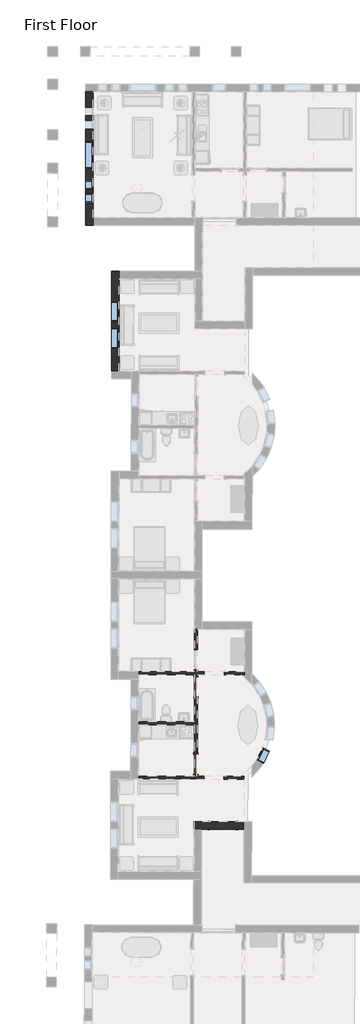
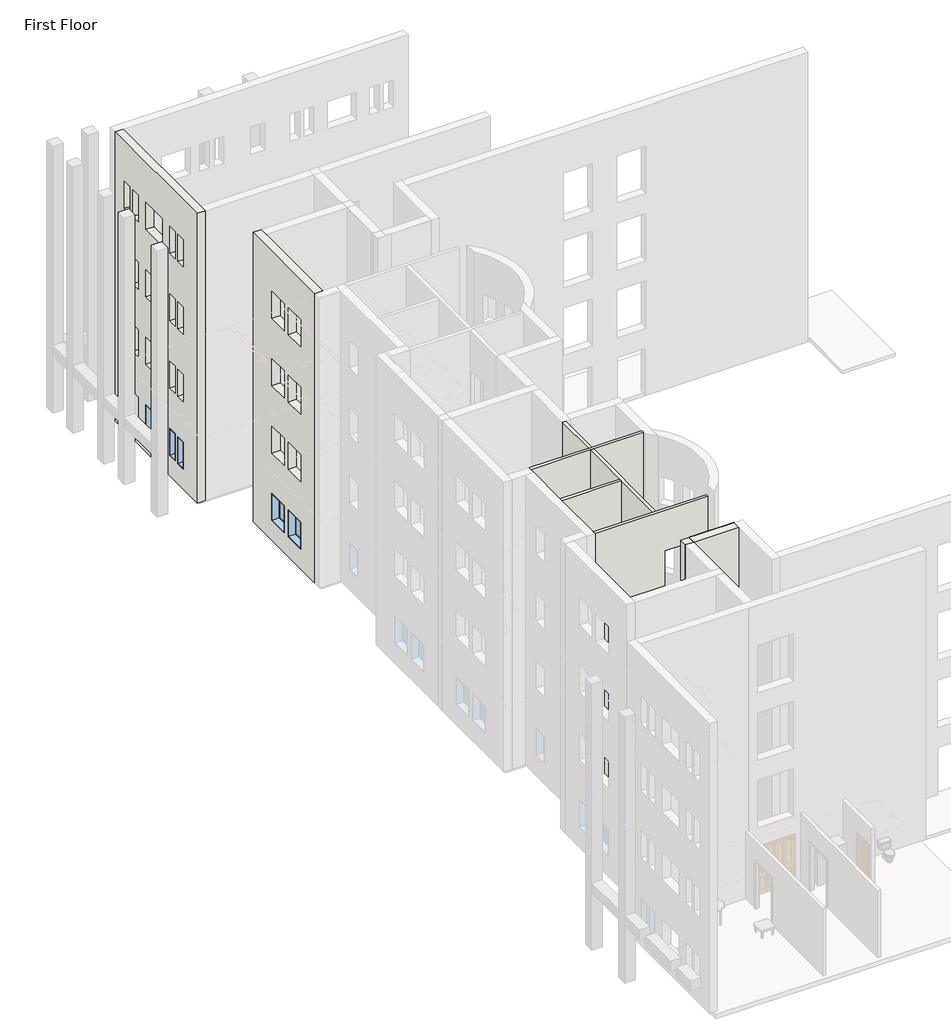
# One storey, part 6 of 23: 8 walls, 6 windows, 3 doors.
"""IFC4 building model written with IfcOpenShell, lengths in millimetres."""

from ifc_helpers import new_model, si_unit, origin, origin_with_axes, place, context, project, spatial, polyline, outline, extrude, faceted_brep, transform, mapped, element, save
from components import m_bifold_4_panel_1220_x_2134mm_cde6dea2, m_single_flush_0915_x_2134mm_ab9b6334, m_single_flush_0915_x_2134mm_08e0827a, m_fixed_0406_x_1220mm_57fee329, m_fixed_0610_x_1220mm_2c28ef1d, m_fixed_0915_x_1220mm_bde29121, m_fixed_1220_x_1220mm_8f5f8ad3

model = new_model("IFC4")

# Units and contexts
model_context = context("Model", 3, world=origin())
ifc_project = project(units=[si_unit("LENGTHUNIT", "METRE", prefix="MILLI")], contexts=[model_context])

# Site, building, storey
site = spatial("IfcSite", under=ifc_project)
building = spatial("IfcBuilding", under=site)
storey = spatial("IfcBuildingStorey", under=building, Name="First Floor", Elevation=0.0)

# Doors
placement = place(None, origin())
m_bifold_4_panel_1220_x_2134mm_shape = m_bifold_4_panel_1220_x_2134mm_cde6dea2(model_context)
element("IfcDoor", 1, ObjectType="M_Bifold-4 Panel : 1220 x 2134mm", at=placement, inside=storey, context=model_context, shape_type="MappedRepresentation", body=[
    mapped(m_bifold_4_panel_1220_x_2134mm_shape, transform((-28896.4341492, -31100.6581424, 0.0), x_axis=(-0.9999989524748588, 0.0014474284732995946, 0.0), y_axis=(-0.0014474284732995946, -0.9999989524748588, 0.0), z_axis=(0.0, 0.0, 1.0))),
])
m_single_flush_0915_x_2134mm_shape = m_single_flush_0915_x_2134mm_ab9b6334(model_context)
element("IfcDoor", 2, ObjectType="M_Single-Flush : 0915 x 2134mm", at=placement, inside=storey, context=model_context, shape_type="MappedRepresentation", body=[
    mapped(m_single_flush_0915_x_2134mm_shape, transform((-30135.3858371, -28302.8619177, 0.0), x_axis=(-0.0014474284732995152, -0.9999989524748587, 0.0), y_axis=(0.9999989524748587, -0.0014474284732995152, 0.0), z_axis=(0.0, 0.0, 1.0))),
])
m_single_flush_0915_x_2134mm_2_shape = m_single_flush_0915_x_2134mm_08e0827a(model_context)
element("IfcDoor", 3, ObjectType="M_Single-Flush : 0915 x 2134mm", at=placement, inside=storey, context=model_context, shape_type="MappedRepresentation", body=[
    mapped(m_single_flush_0915_x_2134mm_2_shape, transform((-30130.249999, -24754.6156346, 0.0), x_axis=(0.0014474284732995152, 0.9999989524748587, 0.0), y_axis=(-0.9999989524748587, 0.0014474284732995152, 0.0), z_axis=(0.0, 0.0, 1.0))),
])

# Walls
element("IfcWall", 4, ObjectType="Exterior - Brick on Mtl. Stud", at=placement, inside=storey, context=model_context, shape_type="Brep", body=[
    faceted_brep([(-35170.8416203, 2406.1188386, 0.0), (-35170.8416203, -3504.8811614, 0.0), (-35170.8416203, -3689.8811614, 0.0), (-35170.8416203, -3689.8811614, 13107.0), (-35170.8416203, 2406.1188386, 13107.0), (-35170.8416203, -1076.8811614, 915.0), (-35170.8416203, 143.1188386, 915.0), (-35170.8416203, 143.1188386, 2135.0), (-35170.8416203, -1076.8811614, 2135.0), (-35170.8416203, 701.1188386, 915.0), (-35170.8416203, 1107.1188386, 915.0), (-35170.8416203, 1107.1188386, 2135.0), (-35170.8416203, 701.1188386, 2135.0), (-35170.8416203, 1311.1188386, 915.0), (-35170.8416203, 1717.1188386, 915.0), (-35170.8416203, 1717.1188386, 2135.0), (-35170.8416203, 1311.1188386, 2135.0), (-35170.8416203, -1634.8811614, 915.0), (-35170.8416203, -1634.8811614, 2135.0), (-35170.8416203, -2040.8811614, 2135.0), (-35170.8416203, -2040.8811614, 915.0), (-35170.8416203, -2244.8811614, 915.0), (-35170.8416203, -2244.8811614, 2135.0), (-35170.8416203, -2650.8811614, 2135.0), (-35170.8416203, -2650.8811614, 915.0), (-35170.8416203, -1634.8811614, 10059.0), (-35170.8416203, -1634.8811614, 11279.0), (-35170.8416203, -2040.8811614, 11279.0), (-35170.8416203, -2040.8811614, 10059.0), (-35170.8416203, -2244.8811614, 10059.0), (-35170.8416203, -2244.8811614, 11279.0), (-35170.8416203, -2650.8811614, 11279.0), (-35170.8416203, -2650.8811614, 10059.0), (-35170.8416203, 701.1188386, 10059.0), (-35170.8416203, 1107.1188386, 10059.0), (-35170.8416203, 1107.1188386, 11279.0), (-35170.8416203, 701.1188386, 11279.0), (-35170.8416203, 1311.1188386, 10059.0), (-35170.8416203, 1717.1188386, 10059.0), (-35170.8416203, 1717.1188386, 11279.0), (-35170.8416203, 1311.1188386, 11279.0), (-35170.8416203, -1076.8811614, 10059.0), (-35170.8416203, 143.1188386, 10059.0), (-35170.8416203, 143.1188386, 11279.0), (-35170.8416203, -1076.8811614, 11279.0), (-35170.8416203, -1634.8811614, 3963.0), (-35170.8416203, -1634.8811614, 5183.0), (-35170.8416203, -2040.8811614, 5183.0), (-35170.8416203, -2040.8811614, 3963.0), (-35170.8416203, -2244.8811614, 3963.0), (-35170.8416203, -2244.8811614, 5183.0), (-35170.8416203, -2650.8811614, 5183.0), (-35170.8416203, -2650.8811614, 3963.0), (-35170.8416203, 701.1188386, 3963.0), (-35170.8416203, 1107.1188386, 3963.0), (-35170.8416203, 1107.1188386, 5183.0), (-35170.8416203, 701.1188386, 5183.0), (-35170.8416203, 1311.1188386, 3963.0), (-35170.8416203, 1717.1188386, 3963.0), (-35170.8416203, 1717.1188386, 5183.0), (-35170.8416203, 1311.1188386, 5183.0), (-35170.8416203, -1076.8811614, 3963.0), (-35170.8416203, 143.1188386, 3963.0), (-35170.8416203, 143.1188386, 5183.0), (-35170.8416203, -1076.8811614, 5183.0), (-35170.8416203, -1634.8811614, 7011.0), (-35170.8416203, -1634.8811614, 8231.0), (-35170.8416203, -2040.8811614, 8231.0), (-35170.8416203, -2040.8811614, 7011.0), (-35170.8416203, -2244.8811614, 7011.0), (-35170.8416203, -2244.8811614, 8231.0), (-35170.8416203, -2650.8811614, 8231.0), (-35170.8416203, -2650.8811614, 7011.0), (-35170.8416203, 701.1188386, 7011.0), (-35170.8416203, 1107.1188386, 7011.0), (-35170.8416203, 1107.1188386, 8231.0), (-35170.8416203, 701.1188386, 8231.0), (-35170.8416203, 1311.1188386, 7011.0), (-35170.8416203, 1717.1188386, 7011.0), (-35170.8416203, 1717.1188386, 8231.0), (-35170.8416203, 1311.1188386, 8231.0), (-35170.8416203, -1076.8811614, 7011.0), (-35170.8416203, 143.1188386, 7011.0), (-35170.8416203, 143.1188386, 8231.0), (-35170.8416203, -1076.8811614, 8231.0), (-34820.8416203, 2406.1188386, 0.0), (-34820.8416203, 2406.1188386, 13107.0), (-34820.8416203, -3339.8811614, 13107.0), (-34820.8416203, -3689.8811614, 13107.0), (-34820.8416203, -3689.8811614, 0.0), (-34820.8416203, -3504.8811614, 0.0), (-34820.8416203, -3339.8811614, 0.0), (-34820.8416203, -1076.8811614, 915.0), (-34820.8416203, -1076.8811614, 2135.0), (-34820.8416203, 143.1188386, 2135.0), (-34820.8416203, 143.1188386, 915.0), (-34820.8416203, 701.1188386, 915.0), (-34820.8416203, 701.1188386, 2135.0), (-34820.8416203, 1107.1188386, 2135.0), (-34820.8416203, 1107.1188386, 915.0), (-34820.8416203, 1311.1188386, 915.0), (-34820.8416203, 1311.1188386, 2135.0), (-34820.8416203, 1717.1188386, 2135.0), (-34820.8416203, 1717.1188386, 915.0), (-34820.8416203, -1634.8811614, 915.0), (-34820.8416203, -2040.8811614, 915.0), (-34820.8416203, -2040.8811614, 2135.0), (-34820.8416203, -1634.8811614, 2135.0), (-34820.8416203, -2244.8811614, 915.0), (-34820.8416203, -2650.8811614, 915.0), (-34820.8416203, -2650.8811614, 2135.0), (-34820.8416203, -2244.8811614, 2135.0), (-34820.8416203, -1634.8811614, 10059.0), (-34820.8416203, -2040.8811614, 10059.0), (-34820.8416203, -2040.8811614, 11279.0), (-34820.8416203, -1634.8811614, 11279.0), (-34820.8416203, -2244.8811614, 10059.0), (-34820.8416203, -2650.8811614, 10059.0), (-34820.8416203, -2650.8811614, 11279.0), (-34820.8416203, -2244.8811614, 11279.0), (-34820.8416203, 701.1188386, 10059.0), (-34820.8416203, 701.1188386, 11279.0), (-34820.8416203, 1107.1188386, 11279.0), (-34820.8416203, 1107.1188386, 10059.0), (-34820.8416203, 1311.1188386, 10059.0), (-34820.8416203, 1311.1188386, 11279.0), (-34820.8416203, 1717.1188386, 11279.0), (-34820.8416203, 1717.1188386, 10059.0), (-34820.8416203, -1076.8811614, 10059.0), (-34820.8416203, -1076.8811614, 11279.0), (-34820.8416203, 143.1188386, 11279.0), (-34820.8416203, 143.1188386, 10059.0), (-34820.8416203, -1634.8811614, 3963.0), (-34820.8416203, -2040.8811614, 3963.0), (-34820.8416203, -2040.8811614, 5183.0), (-34820.8416203, -1634.8811614, 5183.0), (-34820.8416203, -2244.8811614, 3963.0), (-34820.8416203, -2650.8811614, 3963.0), (-34820.8416203, -2650.8811614, 5183.0), (-34820.8416203, -2244.8811614, 5183.0), (-34820.8416203, 701.1188386, 3963.0), (-34820.8416203, 701.1188386, 5183.0), (-34820.8416203, 1107.1188386, 5183.0), (-34820.8416203, 1107.1188386, 3963.0), (-34820.8416203, 1311.1188386, 3963.0), (-34820.8416203, 1311.1188386, 5183.0), (-34820.8416203, 1717.1188386, 5183.0), (-34820.8416203, 1717.1188386, 3963.0), (-34820.8416203, -1076.8811614, 3963.0), (-34820.8416203, -1076.8811614, 5183.0), (-34820.8416203, 143.1188386, 5183.0), (-34820.8416203, 143.1188386, 3963.0), (-34820.8416203, -1634.8811614, 7011.0), (-34820.8416203, -2040.8811614, 7011.0), (-34820.8416203, -2040.8811614, 8231.0), (-34820.8416203, -1634.8811614, 8231.0), (-34820.8416203, -2244.8811614, 7011.0), (-34820.8416203, -2650.8811614, 7011.0), (-34820.8416203, -2650.8811614, 8231.0), (-34820.8416203, -2244.8811614, 8231.0), (-34820.8416203, 701.1188386, 7011.0), (-34820.8416203, 701.1188386, 8231.0), (-34820.8416203, 1107.1188386, 8231.0), (-34820.8416203, 1107.1188386, 7011.0), (-34820.8416203, 1311.1188386, 7011.0), (-34820.8416203, 1311.1188386, 8231.0), (-34820.8416203, 1717.1188386, 8231.0), (-34820.8416203, 1717.1188386, 7011.0), (-34820.8416203, -1076.8811614, 7011.0), (-34820.8416203, -1076.8811614, 8231.0), (-34820.8416203, 143.1188386, 8231.0), (-34820.8416203, 143.1188386, 7011.0), (-34985.8416203, 2406.1188386, 0.0), (-34985.8416203, -3689.8811614, 0.0), (-34985.8416203, -3504.8811614, 0.0)], [[[0, 1, 2, 3, 4], [5, 6, 7, 8], [9, 10, 11, 12], [13, 14, 15, 16], [17, 18, 19, 20], [21, 22, 23, 24], [25, 26, 27, 28], [29, 30, 31, 32], [33, 34, 35, 36], [37, 38, 39, 40], [41, 42, 43, 44], [45, 46, 47, 48], [49, 50, 51, 52], [53, 54, 55, 56], [57, 58, 59, 60], [61, 62, 63, 64], [65, 66, 67, 68], [69, 70, 71, 72], [73, 74, 75, 76], [77, 78, 79, 80], [81, 82, 83, 84]], [[85, 86, 87, 88, 89, 90, 91], [92, 93, 94, 95], [96, 97, 98, 99], [100, 101, 102, 103], [104, 105, 106, 107], [108, 109, 110, 111], [112, 113, 114, 115], [116, 117, 118, 119], [120, 121, 122, 123], [124, 125, 126, 127], [128, 129, 130, 131], [132, 133, 134, 135], [136, 137, 138, 139], [140, 141, 142, 143], [144, 145, 146, 147], [148, 149, 150, 151], [152, 153, 154, 155], [156, 157, 158, 159], [160, 161, 162, 163], [164, 165, 166, 167], [168, 169, 170, 171]], [[4, 3, 88, 87, 86]], [[0, 4, 86, 85, 172]], [[3, 2, 173, 89, 88]], [[93, 92, 5, 8]], [[94, 93, 8, 7]], [[95, 94, 7, 6]], [[92, 95, 6, 5]], [[97, 96, 9, 12]], [[98, 97, 12, 11]], [[99, 98, 11, 10]], [[96, 99, 10, 9]], [[101, 100, 13, 16]], [[102, 101, 16, 15]], [[103, 102, 15, 14]], [[100, 103, 14, 13]], [[18, 17, 104, 107]], [[19, 18, 107, 106]], [[20, 19, 106, 105]], [[17, 20, 105, 104]], [[22, 21, 108, 111]], [[23, 22, 111, 110]], [[24, 23, 110, 109]], [[21, 24, 109, 108]], [[90, 89, 173, 174]], [[1, 0, 172, 174]], [[2, 1, 174, 173]], [[26, 25, 112, 115]], [[27, 26, 115, 114]], [[28, 27, 114, 113]], [[25, 28, 113, 112]], [[30, 29, 116, 119]], [[31, 30, 119, 118]], [[32, 31, 118, 117]], [[29, 32, 117, 116]], [[121, 120, 33, 36]], [[122, 121, 36, 35]], [[123, 122, 35, 34]], [[120, 123, 34, 33]], [[125, 124, 37, 40]], [[126, 125, 40, 39]], [[127, 126, 39, 38]], [[124, 127, 38, 37]], [[129, 128, 41, 44]], [[130, 129, 44, 43]], [[131, 130, 43, 42]], [[128, 131, 42, 41]], [[46, 45, 132, 135]], [[47, 46, 135, 134]], [[48, 47, 134, 133]], [[45, 48, 133, 132]], [[50, 49, 136, 139]], [[51, 50, 139, 138]], [[52, 51, 138, 137]], [[49, 52, 137, 136]], [[141, 140, 53, 56]], [[142, 141, 56, 55]], [[143, 142, 55, 54]], [[140, 143, 54, 53]], [[145, 144, 57, 60]], [[146, 145, 60, 59]], [[147, 146, 59, 58]], [[144, 147, 58, 57]], [[149, 148, 61, 64]], [[150, 149, 64, 63]], [[151, 150, 63, 62]], [[148, 151, 62, 61]], [[66, 65, 152, 155]], [[67, 66, 155, 154]], [[68, 67, 154, 153]], [[65, 68, 153, 152]], [[70, 69, 156, 159]], [[71, 70, 159, 158]], [[72, 71, 158, 157]], [[69, 72, 157, 156]], [[161, 160, 73, 76]], [[162, 161, 76, 75]], [[163, 162, 75, 74]], [[160, 163, 74, 73]], [[165, 164, 77, 80]], [[166, 165, 80, 79]], [[167, 166, 79, 78]], [[164, 167, 78, 77]], [[169, 168, 81, 84]], [[170, 169, 84, 83]], [[171, 170, 83, 82]], [[168, 171, 82, 81]], [[172, 85, 91, 90, 174]]]),
])
element("IfcWall", 5, ObjectType="Exterior - Brick on Mtl. Stud", at=placement, inside=storey, context=model_context, shape_type="Brep", body=[
    faceted_brep([(-33644.3964507, -10344.7640643, 0.0), (-33638.2854077, -6122.7684869, 0.0), (-33638.046582, -5957.7686598, 0.0), (-33637.7788078, -5772.7688535, 0.0), (-33637.7788078, -5772.7688535, 13107.0), (-33638.2854077, -6122.7684869, 13107.0), (-33644.3964507, -10344.7640643, 13107.0), (-33641.5610831, -8385.8661163, 915.0), (-33642.8854802, -9300.8651578, 915.0), (-33642.8854802, -9300.8651578, 2135.0), (-33641.5610831, -8385.8661163, 2135.0), (-33639.7963783, -7166.6673934, 915.0), (-33641.1207754, -8081.6664349, 915.0), (-33641.1207754, -8081.6664349, 2135.0), (-33639.7963783, -7166.6673934, 2135.0), (-33639.7963783, -7166.6673934, 10059.0), (-33641.1207754, -8081.6664349, 10059.0), (-33641.1207754, -8081.6664349, 11279.0), (-33639.7963783, -7166.6673934, 11279.0), (-33641.5610831, -8385.8661163, 10059.0), (-33642.8854802, -9300.8651578, 10059.0), (-33642.8854802, -9300.8651578, 11279.0), (-33641.5610831, -8385.8661163, 11279.0), (-33639.7963783, -7166.6673934, 3963.0), (-33641.1207754, -8081.6664349, 3963.0), (-33641.1207754, -8081.6664349, 5183.0), (-33639.7963783, -7166.6673934, 5183.0), (-33641.5610831, -8385.8661163, 3963.0), (-33642.8854802, -9300.8651578, 3963.0), (-33642.8854802, -9300.8651578, 5183.0), (-33641.5610831, -8385.8661163, 5183.0), (-33639.7963783, -7166.6673934, 7011.0), (-33641.1207754, -8081.6664349, 7011.0), (-33641.1207754, -8081.6664349, 8231.0), (-33639.7963783, -7166.6673934, 8231.0), (-33641.5610831, -8385.8661163, 7011.0), (-33642.8854802, -9300.8651578, 7011.0), (-33642.8854802, -9300.8651578, 8231.0), (-33641.5610831, -8385.8661163, 8231.0), (-33994.3960841, -10344.2574643, 0.0), (-33994.3960841, -10344.2574643, 13107.0), (-33987.7784411, -5772.2622536, 13107.0), (-33987.7784411, -5772.2622536, 0.0), (-33988.0462154, -5957.2620598, 0.0), (-33991.5607165, -8385.3595163, 915.0), (-33991.5607165, -8385.3595163, 2135.0), (-33992.8851135, -9300.3585578, 2135.0), (-33992.8851135, -9300.3585578, 915.0), (-33989.7960117, -7166.1607934, 915.0), (-33989.7960117, -7166.1607934, 2135.0), (-33991.1204087, -8081.1598349, 2135.0), (-33991.1204087, -8081.1598349, 915.0), (-33989.7960117, -7166.1607934, 10059.0), (-33989.7960117, -7166.1607934, 11279.0), (-33991.1204087, -8081.1598349, 11279.0), (-33991.1204087, -8081.1598349, 10059.0), (-33991.5607165, -8385.3595163, 10059.0), (-33991.5607165, -8385.3595163, 11279.0), (-33992.8851135, -9300.3585578, 11279.0), (-33992.8851135, -9300.3585578, 10059.0), (-33989.7960117, -7166.1607934, 3963.0), (-33989.7960117, -7166.1607934, 5183.0), (-33991.1204087, -8081.1598349, 5183.0), (-33991.1204087, -8081.1598349, 3963.0), (-33991.5607165, -8385.3595163, 3963.0), (-33991.5607165, -8385.3595163, 5183.0), (-33992.8851135, -9300.3585578, 5183.0), (-33992.8851135, -9300.3585578, 3963.0), (-33989.7960117, -7166.1607934, 7011.0), (-33989.7960117, -7166.1607934, 8231.0), (-33991.1204087, -8081.1598349, 8231.0), (-33991.1204087, -8081.1598349, 7011.0), (-33991.5607165, -8385.3595163, 7011.0), (-33991.5607165, -8385.3595163, 8231.0), (-33992.8851135, -9300.3585578, 8231.0), (-33992.8851135, -9300.3585578, 7011.0), (-33809.3962779, -10344.5252386, 0.0), (-33802.7786349, -5772.5300278, 0.0), (-33803.0464092, -5957.5298341, 0.0)], [[[0, 1, 2, 3, 4, 5, 6], [7, 8, 9, 10], [11, 12, 13, 14], [15, 16, 17, 18], [19, 20, 21, 22], [23, 24, 25, 26], [27, 28, 29, 30], [31, 32, 33, 34], [35, 36, 37, 38]], [[39, 40, 41, 42, 43], [44, 45, 46, 47], [48, 49, 50, 51], [52, 53, 54, 55], [56, 57, 58, 59], [60, 61, 62, 63], [64, 65, 66, 67], [68, 69, 70, 71], [72, 73, 74, 75]], [[6, 5, 4, 41, 40]], [[0, 6, 40, 39, 76]], [[4, 3, 77, 42, 41]], [[45, 44, 7, 10]], [[46, 45, 10, 9]], [[47, 46, 9, 8]], [[44, 47, 8, 7]], [[49, 48, 11, 14]], [[50, 49, 14, 13]], [[51, 50, 13, 12]], [[48, 51, 12, 11]], [[76, 39, 43, 78]], [[3, 2, 78, 77]], [[78, 43, 42, 77]], [[2, 1, 0, 76, 78]], [[53, 52, 15, 18]], [[54, 53, 18, 17]], [[55, 54, 17, 16]], [[52, 55, 16, 15]], [[57, 56, 19, 22]], [[58, 57, 22, 21]], [[59, 58, 21, 20]], [[56, 59, 20, 19]], [[61, 60, 23, 26]], [[62, 61, 26, 25]], [[63, 62, 25, 24]], [[60, 63, 24, 23]], [[65, 64, 27, 30]], [[66, 65, 30, 29]], [[67, 66, 29, 28]], [[64, 67, 28, 27]], [[69, 68, 31, 34]], [[70, 69, 34, 33]], [[71, 70, 33, 32]], [[68, 71, 32, 31]], [[73, 72, 35, 38]], [[74, 73, 38, 37]], [[75, 74, 37, 36]], [[72, 75, 36, 35]]]),
])
element("IfcWall", 6, ObjectType="Exterior - Brick on Mtl. Stud", at=placement, inside=storey, context=model_context, shape_type="Brep", body=[
    faceted_brep([(-27927.6813484, -30929.862752, 0.0), (-27928.1859187, -30929.8612914, 0.0), (-30213.6717698, -30923.245116, 0.0), (-30213.6717698, -30923.245116, 13107.0), (-27928.1859187, -30929.8612914, 13107.0), (-27927.6813484, -30929.862752, 13107.0), (-27928.6945472, -31279.8612855, 0.0), (-27928.6945472, -31279.8612855, 13107.0), (-29864.6864352, -31274.2568483, 13107.0), (-30214.6849687, -31273.2436495, 13107.0), (-30214.6849687, -31273.2436495, 0.0), (-29864.6864352, -31274.2568483, 0.0)], [[[0, 1, 2, 3, 4, 5]], [[6, 7, 8, 9, 10, 11]], [[2, 1, 0, 6, 11, 10]], [[5, 4, 3, 9, 8, 7]], [[0, 5, 7, 6]], [[3, 2, 10, 9]]]),
])
element("IfcWall", 7, ObjectType="Exterior - Brick on Mtl. Stud", at=placement, inside=storey, context=model_context, shape_type="Brep", body=[
    faceted_brep([(-27928.6864352, -31277.0590728, 13107.0), (-29864.6864352, -31274.2568483, 13107.0), (-29864.6864352, -31274.2568483, 0.0), (-29506.6868102, -31274.7750277, 0.0), (-29506.6868102, -31274.7750277, 2134.0), (-28286.6880882, -31276.5408905, 2134.0), (-28286.6880882, -31276.5408905, 0.0), (-27928.6864352, -31277.0590728, 0.0), (-29506.6868102, -31274.7750277, 9144.0), (-29506.6868102, -31274.7750277, 11278.0), (-28286.6880882, -31276.5408905, 11278.0), (-28286.6880882, -31276.5408905, 9144.0), (-29506.6868102, -31274.7750277, 3048.0), (-29506.6868102, -31274.7750277, 5182.0), (-28286.6880882, -31276.5408905, 5182.0), (-28286.6880882, -31276.5408905, 3048.0), (-29506.6868102, -31274.7750277, 6096.0), (-29506.6868102, -31274.7750277, 8230.0), (-28286.6880882, -31276.5408905, 8230.0), (-28286.6880882, -31276.5408905, 6096.0), (-29863.6732353, -30924.2579482, 13107.0), (-27927.6732353, -30927.0601727, 13107.0), (-27927.6732353, -30927.0601727, 0.0), (-28286.1814882, -30926.5412571, 0.0), (-28286.1814882, -30926.5412571, 2134.0), (-29506.1802102, -30924.7753944, 2134.0), (-29506.1802102, -30924.7753944, 0.0), (-29863.6732353, -30924.2579482, 0.0), (-29506.1802102, -30924.7753944, 9144.0), (-28286.1814882, -30926.5412571, 9144.0), (-28286.1814882, -30926.5412571, 11278.0), (-29506.1802102, -30924.7753944, 11278.0), (-29506.1802102, -30924.7753944, 3048.0), (-28286.1814882, -30926.5412571, 3048.0), (-28286.1814882, -30926.5412571, 5182.0), (-29506.1802102, -30924.7753944, 5182.0), (-29506.1802102, -30924.7753944, 6096.0), (-28286.1814882, -30926.5412571, 6096.0), (-28286.1814882, -30926.5412571, 8230.0), (-29506.1802102, -30924.7753944, 8230.0), (-27927.6813484, -30929.862752, 13107.0), (-29506.4190359, -31089.7752215, 0.0), (-28286.4203139, -31091.5410842, 0.0), (-29864.1508867, -31089.2574297, 0.0), (-27928.1508867, -31092.0596542, 0.0), (-27927.6813484, -30929.862752, 0.0)], [[[0, 1, 2, 3, 4, 5, 6, 7], [8, 9, 10, 11], [12, 13, 14, 15], [16, 17, 18, 19]], [[20, 21, 22, 23, 24, 25, 26, 27], [28, 29, 30, 31], [32, 33, 34, 35], [36, 37, 38, 39]], [[1, 0, 40, 21, 20]], [[25, 4, 3, 41, 26]], [[4, 25, 24, 5]], [[5, 24, 23, 42, 6]], [[2, 43, 41, 3]], [[44, 7, 6, 42]], [[9, 8, 28, 31]], [[10, 9, 31, 30]], [[11, 10, 30, 29]], [[8, 11, 29, 28]], [[13, 12, 32, 35]], [[14, 13, 35, 34]], [[15, 14, 34, 33]], [[12, 15, 33, 32]], [[17, 16, 36, 39]], [[18, 17, 39, 38]], [[19, 18, 38, 37]], [[16, 19, 37, 36]], [[0, 7, 44, 45, 22, 21, 40]], [[2, 1, 20, 27, 43]], [[43, 27, 26, 41]], [[22, 45, 44, 42, 23]]]),
])
element("IfcWall", 8, ObjectType="Interior - 135mm Partition (2-hr)", at=placement, inside=storey, context=model_context, shape_type="Brep", body=[
    faceted_brep([(-28833.7610604, -24210.4916396, 2134.0), (-28833.7610604, -24210.4916396, 0.0), (-27918.4620192, -24211.8164709, 0.0), (-27918.4620192, -24211.8164709, 13107.0), (-30061.7097741, -24208.7142698, 13107.0), (-30197.2096321, -24208.5181432, 13107.0), (-32750.056958, -24204.8230755, 13107.0), (-32750.056958, -24204.8230755, 0.0), (-30197.2096321, -24208.5181432, 0.0), (-30061.7097741, -24208.7142698, 0.0), (-29748.7601019, -24209.1672425, 0.0), (-29748.7601019, -24209.1672425, 2134.0), (-29748.7601019, -24209.1672425, 11278.0), (-28833.7610604, -24210.4916396, 11278.0), (-28833.7610604, -24210.4916396, 9144.0), (-29748.7601019, -24209.1672425, 9144.0), (-29748.7601019, -24209.1672425, 5182.0), (-28833.7610604, -24210.4916396, 5182.0), (-28833.7610604, -24210.4916396, 3048.0), (-29748.7601019, -24209.1672425, 3048.0), (-29748.7601019, -24209.1672425, 8230.0), (-28833.7610604, -24210.4916396, 8230.0), (-28833.7610604, -24210.4916396, 6096.0), (-29748.7601019, -24209.1672425, 6096.0), (-27918.2658926, -24076.3166128, 0.0), (-28833.5649338, -24074.9917815, 0.0), (-28833.5649338, -24074.9917815, 2134.0), (-29748.5639753, -24073.6673845, 2134.0), (-29748.5639753, -24073.6673845, 0.0), (-30061.5136475, -24073.2144117, 0.0), (-30197.0135056, -24073.0182852, 0.0), (-32749.8608314, -24069.3232174, 0.0), (-32749.8608314, -24069.3232174, 13107.0), (-30197.0135056, -24073.0182852, 13107.0), (-30061.5136475, -24073.2144117, 13107.0), (-27918.2658926, -24076.3166128, 13107.0), (-29748.5639753, -24073.6673845, 11278.0), (-29748.5639753, -24073.6673845, 9144.0), (-28833.5649338, -24074.9917815, 9144.0), (-28833.5649338, -24074.9917815, 11278.0), (-29748.5639753, -24073.6673845, 5182.0), (-29748.5639753, -24073.6673845, 3048.0), (-28833.5649338, -24074.9917815, 3048.0), (-28833.5649338, -24074.9917815, 5182.0), (-29748.5639753, -24073.6673845, 8230.0), (-29748.5639753, -24073.6673845, 6096.0), (-28833.5649338, -24074.9917815, 6096.0), (-28833.5649338, -24074.9917815, 8230.0)], [[[0, 1, 2, 3, 4, 5, 6, 7, 8, 9, 10, 11], [12, 13, 14, 15], [16, 17, 18, 19], [20, 21, 22, 23]], [[24, 25, 26, 27, 28, 29, 30, 31, 32, 33, 34, 35], [36, 37, 38, 39], [40, 41, 42, 43], [44, 45, 46, 47]], [[2, 1, 25, 24]], [[10, 9, 8, 7, 31, 30, 29, 28]], [[6, 5, 4, 3, 35, 34, 33, 32]], [[7, 6, 32, 31]], [[3, 2, 24, 35]], [[28, 27, 11, 10]], [[26, 25, 1, 0]], [[27, 26, 0, 11]], [[37, 36, 12, 15]], [[38, 37, 15, 14]], [[39, 38, 14, 13]], [[36, 39, 13, 12]], [[41, 40, 16, 19]], [[42, 41, 19, 18]], [[43, 42, 18, 17]], [[40, 43, 17, 16]], [[45, 44, 20, 23]], [[46, 45, 23, 22]], [[47, 46, 22, 21]], [[44, 47, 21, 20]]]),
])
element("IfcWall", 9, ObjectType="Interior - 135mm Partition (2-hr)", at=placement, inside=storey, context=model_context, shape_type="Brep", body=[
    faceted_brep([(-28840.6681891, -28982.4866408, 2134.0), (-28840.6681891, -28982.4866408, 0.0), (-27925.3691479, -28983.8114721, 0.0), (-27925.3691479, -28983.8114721, 13107.0), (-32756.9640866, -28976.8180767, 13107.0), (-32756.9640866, -28976.8180767, 0.0), (-29755.6672306, -28981.1622438, 0.0), (-29755.6672306, -28981.1622438, 2134.0), (-29755.6672306, -28981.1622438, 11278.0), (-28840.6681891, -28982.4866408, 11278.0), (-28840.6681891, -28982.4866408, 9144.0), (-29755.6672306, -28981.1622438, 9144.0), (-29755.6672306, -28981.1622438, 5182.0), (-28840.6681891, -28982.4866408, 5182.0), (-28840.6681891, -28982.4866408, 3048.0), (-29755.6672306, -28981.1622438, 3048.0), (-29755.6672306, -28981.1622438, 8230.0), (-28840.6681891, -28982.4866408, 8230.0), (-28840.6681891, -28982.4866408, 6096.0), (-29755.6672306, -28981.1622438, 6096.0), (-27925.1730213, -28848.311614, 0.0), (-28840.4720625, -28846.9867827, 0.0), (-28840.4720625, -28846.9867827, 2134.0), (-29755.471104, -28845.6623857, 2134.0), (-29755.471104, -28845.6623857, 0.0), (-30068.4207762, -28845.209413, 0.0), (-30203.9206342, -28845.0132864, 0.0), (-32756.7679601, -28841.3182186, 0.0), (-32756.7679601, -28841.3182186, 13107.0), (-30203.9206342, -28845.0132864, 13107.0), (-30068.4207762, -28845.209413, 13107.0), (-27925.1730213, -28848.311614, 13107.0), (-29755.471104, -28845.6623857, 11278.0), (-29755.471104, -28845.6623857, 9144.0), (-28840.4720625, -28846.9867827, 9144.0), (-28840.4720625, -28846.9867827, 11278.0), (-29755.471104, -28845.6623857, 5182.0), (-29755.471104, -28845.6623857, 3048.0), (-28840.4720625, -28846.9867827, 3048.0), (-28840.4720625, -28846.9867827, 5182.0), (-29755.471104, -28845.6623857, 8230.0), (-29755.471104, -28845.6623857, 6096.0), (-28840.4720625, -28846.9867827, 6096.0), (-28840.4720625, -28846.9867827, 8230.0)], [[[0, 1, 2, 3, 4, 5, 6, 7], [8, 9, 10, 11], [12, 13, 14, 15], [16, 17, 18, 19]], [[20, 21, 22, 23, 24, 25, 26, 27, 28, 29, 30, 31], [32, 33, 34, 35], [36, 37, 38, 39], [40, 41, 42, 43]], [[6, 5, 27, 26, 25, 24]], [[2, 1, 21, 20]], [[4, 3, 31, 30, 29, 28]], [[5, 4, 28, 27]], [[3, 2, 20, 31]], [[24, 23, 7, 6]], [[22, 21, 1, 0]], [[23, 22, 0, 7]], [[33, 32, 8, 11]], [[34, 33, 11, 10]], [[35, 34, 10, 9]], [[32, 35, 9, 8]], [[37, 36, 12, 15]], [[38, 37, 15, 14]], [[39, 38, 14, 13]], [[36, 39, 13, 12]], [[41, 40, 16, 19]], [[42, 41, 19, 18]], [[43, 42, 18, 17]], [[40, 43, 17, 16]]]),
])
element("IfcWall", 10, ObjectType="Interior - 135mm Partition (2-hr)", at=placement, inside=storey, context=model_context, shape_type="Brep", body=[
    faceted_brep([(-30194.2007902, -22129.7703208, 13107.0), (-30194.2007902, -22129.7703208, 0.0), (-30195.5718668, -23077.0193285, 0.0), (-30195.5718668, -23077.0193285, 2134.0), (-30196.8962639, -23992.01837, 2134.0), (-30196.8962639, -23992.01837, 0.0), (-30197.0135056, -24073.0182852, 0.0), (-30197.0135056, -24073.0182852, 13107.0), (-30196.8962639, -23992.01837, 9144.0), (-30195.5718668, -23077.0193285, 9144.0), (-30195.5718668, -23077.0193285, 11278.0), (-30196.8962639, -23992.01837, 11278.0), (-30196.8962639, -23992.01837, 3048.0), (-30195.5718668, -23077.0193285, 3048.0), (-30195.5718668, -23077.0193285, 5182.0), (-30196.8962639, -23992.01837, 5182.0), (-30196.8962639, -23992.01837, 6096.0), (-30195.5718668, -23077.0193285, 6096.0), (-30195.5718668, -23077.0193285, 8230.0), (-30196.8962639, -23992.01837, 8230.0), (-30058.7009321, -22129.9664473, 0.0), (-30058.7009321, -22129.9664473, 13107.0), (-30061.5136475, -24073.2144117, 13107.0), (-30061.5136475, -24073.2144117, 0.0), (-30061.3964058, -23992.2144966, 0.0), (-30061.3964058, -23992.2144966, 2134.0), (-30060.0720088, -23077.2154551, 2134.0), (-30060.0720088, -23077.2154551, 0.0), (-30060.0720088, -23077.2154551, 9144.0), (-30061.3964058, -23992.2144966, 9144.0), (-30061.3964058, -23992.2144966, 11278.0), (-30060.0720088, -23077.2154551, 11278.0), (-30060.0720088, -23077.2154551, 3048.0), (-30061.3964058, -23992.2144966, 3048.0), (-30061.3964058, -23992.2144966, 5182.0), (-30060.0720088, -23077.2154551, 5182.0), (-30060.0720088, -23077.2154551, 6096.0), (-30061.3964058, -23992.2144966, 6096.0), (-30061.3964058, -23992.2144966, 8230.0), (-30060.0720088, -23077.2154551, 8230.0)], [[[0, 1, 2, 3, 4, 5, 6, 7], [8, 9, 10, 11], [12, 13, 14, 15], [16, 17, 18, 19]], [[20, 21, 22, 23, 24, 25, 26, 27], [28, 29, 30, 31], [32, 33, 34, 35], [36, 37, 38, 39]], [[1, 20, 27, 2]], [[5, 24, 23, 6]], [[21, 0, 7, 22]], [[1, 0, 21, 20]], [[7, 6, 23, 22]], [[4, 25, 24, 5]], [[25, 4, 3, 26]], [[26, 3, 2, 27]], [[29, 28, 9, 8]], [[30, 29, 8, 11]], [[31, 30, 11, 10]], [[28, 31, 10, 9]], [[33, 32, 13, 12]], [[34, 33, 12, 15]], [[35, 34, 15, 14]], [[32, 35, 14, 13]], [[37, 36, 17, 16]], [[38, 37, 16, 19]], [[39, 38, 19, 18]], [[36, 39, 18, 17]]]),
    faceted_brep([(-30203.9206342, -28845.0132864, 0.0), (-30203.9206342, -28845.0132864, 13107.0), (-30200.5406716, -26509.8657325, 13107.0), (-30200.3445451, -26374.3658745, 13107.0), (-30197.2096321, -24208.5181432, 13107.0), (-30197.2096321, -24208.5181432, 0.0), (-30197.3377295, -24297.0180505, 0.0), (-30197.3377295, -24297.0180505, 2134.0), (-30198.6621266, -25212.0170921, 2134.0), (-30198.6621266, -25212.0170921, 0.0), (-30200.3445451, -26374.3658745, 0.0), (-30200.5406716, -26509.8657325, 0.0), (-30202.4735676, -27845.2643337, 0.0), (-30202.4735676, -27845.2643337, 2134.0), (-30203.7979647, -28760.2633752, 2134.0), (-30203.7979647, -28760.2633752, 0.0), (-30203.7979647, -28760.2633752, 9144.0), (-30202.4735676, -27845.2643337, 9144.0), (-30202.4735676, -27845.2643337, 11278.0), (-30203.7979647, -28760.2633752, 11278.0), (-30198.6621266, -25212.0170921, 9144.0), (-30197.3377295, -24297.0180505, 9144.0), (-30197.3377295, -24297.0180505, 11278.0), (-30198.6621266, -25212.0170921, 11278.0), (-30203.7979647, -28760.2633752, 3048.0), (-30202.4735676, -27845.2643337, 3048.0), (-30202.4735676, -27845.2643337, 5182.0), (-30203.7979647, -28760.2633752, 5182.0), (-30198.6621266, -25212.0170921, 3048.0), (-30197.3377295, -24297.0180505, 3048.0), (-30197.3377295, -24297.0180505, 5182.0), (-30198.6621266, -25212.0170921, 5182.0), (-30203.7979647, -28760.2633752, 6096.0), (-30202.4735676, -27845.2643337, 6096.0), (-30202.4735676, -27845.2643337, 8230.0), (-30203.7979647, -28760.2633752, 8230.0), (-30198.6621266, -25212.0170921, 6096.0), (-30197.3377295, -24297.0180505, 6096.0), (-30197.3377295, -24297.0180505, 8230.0), (-30198.6621266, -25212.0170921, 8230.0), (-30068.4207762, -28845.209413, 13107.0), (-30068.4207762, -28845.209413, 0.0), (-30068.2981066, -28760.4595017, 0.0), (-30068.2981066, -28760.4595017, 2134.0), (-30066.9737096, -27845.4604602, 2134.0), (-30066.9737096, -27845.4604602, 0.0), (-30063.1622685, -25212.2132186, 0.0), (-30063.1622685, -25212.2132186, 2134.0), (-30061.8378715, -24297.2141771, 2134.0), (-30061.8378715, -24297.2141771, 0.0), (-30061.7097741, -24208.7142698, 0.0), (-30061.7097741, -24208.7142698, 13107.0), (-30066.9737096, -27845.4604602, 9144.0), (-30068.2981066, -28760.4595017, 9144.0), (-30068.2981066, -28760.4595017, 11278.0), (-30066.9737096, -27845.4604602, 11278.0), (-30061.8378715, -24297.2141771, 9144.0), (-30063.1622685, -25212.2132186, 9144.0), (-30063.1622685, -25212.2132186, 11278.0), (-30061.8378715, -24297.2141771, 11278.0), (-30066.9737096, -27845.4604602, 3048.0), (-30068.2981066, -28760.4595017, 3048.0), (-30068.2981066, -28760.4595017, 5182.0), (-30066.9737096, -27845.4604602, 5182.0), (-30061.8378715, -24297.2141771, 3048.0), (-30063.1622685, -25212.2132186, 3048.0), (-30063.1622685, -25212.2132186, 5182.0), (-30061.8378715, -24297.2141771, 5182.0), (-30066.9737096, -27845.4604602, 6096.0), (-30068.2981066, -28760.4595017, 6096.0), (-30068.2981066, -28760.4595017, 8230.0), (-30066.9737096, -27845.4604602, 8230.0), (-30061.8378715, -24297.2141771, 6096.0), (-30063.1622685, -25212.2132186, 6096.0), (-30063.1622685, -25212.2132186, 8230.0), (-30061.8378715, -24297.2141771, 8230.0)], [[[0, 1, 2, 3, 4, 5, 6, 7, 8, 9, 10, 11, 12, 13, 14, 15], [16, 17, 18, 19], [20, 21, 22, 23], [24, 25, 26, 27], [28, 29, 30, 31], [32, 33, 34, 35], [36, 37, 38, 39]], [[40, 41, 42, 43, 44, 45, 46, 47, 48, 49, 50, 51], [52, 53, 54, 55], [56, 57, 58, 59], [60, 61, 62, 63], [64, 65, 66, 67], [68, 69, 70, 71], [72, 73, 74, 75]], [[41, 0, 15, 42]], [[49, 6, 5, 50]], [[9, 46, 45, 12, 11, 10]], [[1, 40, 51, 4, 3, 2]], [[1, 0, 41, 40]], [[5, 4, 51, 50]], [[7, 6, 49, 48]], [[8, 7, 48, 47]], [[9, 8, 47, 46]], [[43, 42, 15, 14]], [[44, 43, 14, 13]], [[45, 44, 13, 12]], [[53, 52, 17, 16]], [[54, 53, 16, 19]], [[55, 54, 19, 18]], [[52, 55, 18, 17]], [[21, 20, 57, 56]], [[22, 21, 56, 59]], [[23, 22, 59, 58]], [[20, 23, 58, 57]], [[61, 60, 25, 24]], [[62, 61, 24, 27]], [[63, 62, 27, 26]], [[60, 63, 26, 25]], [[29, 28, 65, 64]], [[30, 29, 64, 67]], [[31, 30, 67, 66]], [[28, 31, 66, 65]], [[69, 68, 33, 32]], [[70, 69, 32, 35]], [[71, 70, 35, 34]], [[68, 71, 34, 33]], [[37, 36, 73, 72]], [[38, 37, 72, 75]], [[39, 38, 75, 74]], [[36, 39, 74, 73]]]),
])
element("IfcWall", 11, ObjectType="Interior - 135mm Partition (2-hr)", at=placement, inside=storey, context=model_context, shape_type="SweptSolid", body=[
    extrude(outline(polyline([(-30200.5406716, -26509.8657325), (-32753.3879975, -26506.1706647), (-32753.1918709, -26370.6708067), (-30200.3445451, -26374.3658745), (-30200.5406716, -26509.8657325)])), origin_with_axes(), (0.0, 0.0, 1.0), 13107.0),
])

# Windows
m_fixed_0406_x_1220mm_shape = m_fixed_0406_x_1220mm_57fee329(model_context)
element("IfcWindow", 12, ObjectType="M_Fixed : 0406 x 1220mm", at=placement, inside=storey, context=model_context, shape_type="MappedRepresentation", body=[
    mapped(m_fixed_0406_x_1220mm_shape, transform((-35008.8416203, -2447.8811614, 0.0), x_axis=(0.0, -1.0, 0.0), y_axis=(1.0, 0.0, 0.0), z_axis=(0.0, 0.0, 1.0))),
])
element("IfcWindow", 13, ObjectType="M_Fixed : 0406 x 1220mm", at=placement, inside=storey, context=model_context, shape_type="MappedRepresentation", body=[
    mapped(m_fixed_0406_x_1220mm_shape, transform((-35008.8416203, -1837.8811614, 0.0), x_axis=(0.0, -1.0, 0.0), y_axis=(1.0, 0.0, 0.0), z_axis=(0.0, 0.0, 1.0))),
])
m_fixed_0610_x_1220mm_shape = m_fixed_0610_x_1220mm_2c28ef1d(model_context)
element("IfcWindow", 14, ObjectType="M_Fixed : 0610 x 1220mm", at=placement, inside=storey, context=model_context, shape_type="MappedRepresentation", body=[
    mapped(m_fixed_0610_x_1220mm_shape, transform((-27047.2502691, -27908.2496385, 0.0), x_axis=(0.4532525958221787, 0.8913821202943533, 0.0), y_axis=(-0.8913821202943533, 0.4532525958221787, 0.0), z_axis=(0.0, 0.0, 1.0))),
])
m_fixed_0915_x_1220mm_shape = m_fixed_0915_x_1220mm_bde29121(model_context)
element("IfcWindow", 15, ObjectType="M_Fixed : 0915 x 1220mm", at=placement, inside=storey, context=model_context, shape_type="MappedRepresentation", body=[
    mapped(m_fixed_0915_x_1220mm_shape, transform((-33830.2230847, -8843.0935205, 0.0), x_axis=(-0.0014474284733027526, -0.9999989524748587, 0.0), y_axis=(0.9999989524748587, -0.0014474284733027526, 0.0), z_axis=(0.0, 0.0, 1.0))),
])
element("IfcWindow", 16, ObjectType="M_Fixed : 0915 x 1220mm", at=placement, inside=storey, context=model_context, shape_type="MappedRepresentation", body=[
    mapped(m_fixed_0915_x_1220mm_shape, transform((-33828.4583799, -7623.8947976, 0.0), x_axis=(-0.0014474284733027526, -0.9999989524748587, 0.0), y_axis=(0.9999989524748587, -0.0014474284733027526, 0.0), z_axis=(0.0, 0.0, 1.0))),
])
m_fixed_1220_x_1220mm_shape = m_fixed_1220_x_1220mm_8f5f8ad3(model_context)
element("IfcWindow", 17, ObjectType="M_Fixed : 1220 x 1220mm", at=placement, inside=storey, context=model_context, shape_type="MappedRepresentation", body=[
    mapped(m_fixed_1220_x_1220mm_shape, transform((-35008.8416203, -466.8811614, 0.0), x_axis=(0.0, 1.0, 0.0), y_axis=(-1.0, 0.0, 0.0), z_axis=(0.0, 0.0, 1.0))),
])

save(model, "model.ifc")
